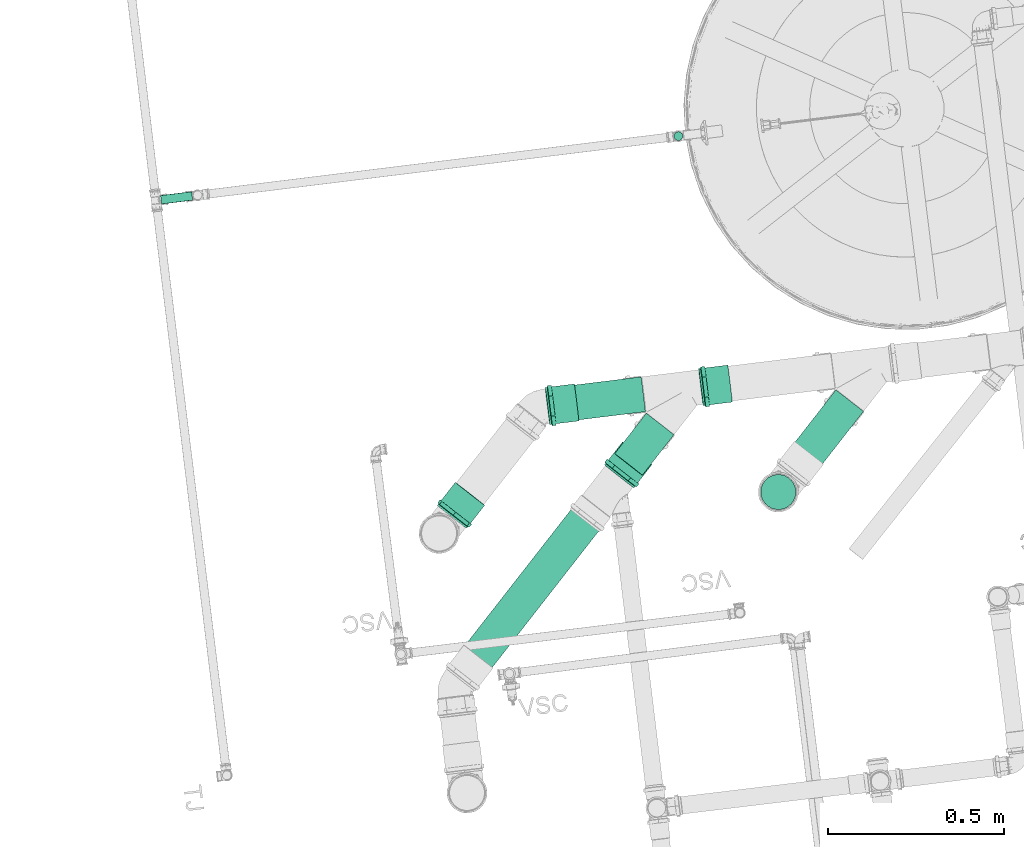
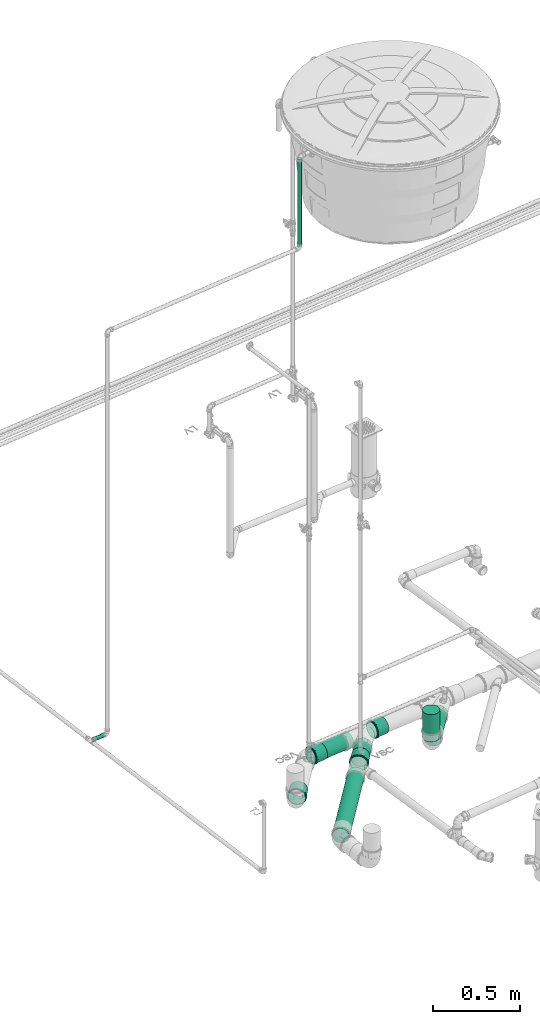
# One storey, part 18 of 97: 7 flow segments, 4 flow fittings.
"""IFC2X3 building model written with IfcOpenShell, lengths in centimetres."""

from ifc_helpers import new_model, entity, si_unit, converted_unit, derived_unit, direction, frame, frame_2d, origin, origin_2d_with_axis, place, context, subcontext, project, spatial, circle, extrude, faceted_brep, source, transform, mapped, material, type_object, type_shapes, element, save


model = new_model("IFC2X3")

# Units and contexts
model_context = context("Model", 3, precision=0.001, world=origin(), true_north=direction((6.12303176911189e-17, 1.0)))
body_context = subcontext(model_context, "Body", "Model", "MODEL_VIEW")
ifc_project = project(units=[si_unit("LENGTHUNIT", "METRE", prefix="CENTI"), si_unit("AREAUNIT", "SQUARE_METRE"), si_unit("VOLUMEUNIT", "CUBIC_METRE"), converted_unit("PLANEANGLEUNIT", "DEGREE", entity("IfcRatioMeasure", 0.0174532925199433), si_unit("PLANEANGLEUNIT", "RADIAN"), dimensions=[0, 0, 0, 0, 0, 0, 0]), si_unit("MASSUNIT", "GRAM", prefix="KILO"), derived_unit("MASSDENSITYUNIT", [(si_unit("MASSUNIT", "GRAM", prefix="KILO"), 1), (si_unit("LENGTHUNIT", "METRE"), -3)]), derived_unit("MOMENTOFINERTIAUNIT", [(si_unit("LENGTHUNIT", "METRE"), 4)]), si_unit("TIMEUNIT", "SECOND"), si_unit("FREQUENCYUNIT", "HERTZ"), si_unit("THERMODYNAMICTEMPERATUREUNIT", "DEGREE_CELSIUS"), derived_unit("THERMALTRANSMITTANCEUNIT", [(si_unit("MASSUNIT", "GRAM", prefix="KILO"), 1), (si_unit("THERMODYNAMICTEMPERATUREUNIT", "KELVIN"), -1), (si_unit("TIMEUNIT", "SECOND"), -3)]), derived_unit("VOLUMETRICFLOWRATEUNIT", [(si_unit("LENGTHUNIT", "METRE"), 3), (si_unit("TIMEUNIT", "SECOND"), -1)]), si_unit("ELECTRICCURRENTUNIT", "AMPERE"), si_unit("ELECTRICVOLTAGEUNIT", "VOLT"), si_unit("POWERUNIT", "WATT"), si_unit("FORCEUNIT", "NEWTON", prefix="KILO"), si_unit("ILLUMINANCEUNIT", "LUX"), si_unit("LUMINOUSFLUXUNIT", "LUMEN"), si_unit("LUMINOUSINTENSITYUNIT", "CANDELA"), derived_unit("USERDEFINED", [(si_unit("MASSUNIT", "GRAM", prefix="KILO"), -1), (si_unit("LENGTHUNIT", "METRE"), -2), (si_unit("TIMEUNIT", "SECOND"), 3), (si_unit("LUMINOUSFLUXUNIT", "LUMEN"), 1)]), derived_unit("LINEARVELOCITYUNIT", [(si_unit("LENGTHUNIT", "METRE"), 1), (si_unit("TIMEUNIT", "SECOND"), -1)]), si_unit("PRESSUREUNIT", "PASCAL"), derived_unit("USERDEFINED", [(si_unit("LENGTHUNIT", "METRE"), -2), (si_unit("MASSUNIT", "GRAM", prefix="KILO"), 1), (si_unit("TIMEUNIT", "SECOND"), -2)]), derived_unit("LINEARFORCEUNIT", [(si_unit("MASSUNIT", "GRAM", prefix="KILO"), 1), (si_unit("LENGTHUNIT", "METRE"), 1), (si_unit("TIMEUNIT", "SECOND"), -2), (si_unit("LENGTHUNIT", "METRE"), -1)]), derived_unit("PLANARFORCEUNIT", [(si_unit("MASSUNIT", "GRAM", prefix="KILO"), 1), (si_unit("LENGTHUNIT", "METRE"), 1), (si_unit("TIMEUNIT", "SECOND"), -2), (si_unit("LENGTHUNIT", "METRE"), -2)])], contexts=[model_context])

# Site, building, storey
site_placement = place(None, origin())
site = spatial("IfcSite", under=ifc_project, at=site_placement, Name="Default", CompositionType="ELEMENT")
building_placement = place(site_placement, origin())
building = spatial("IfcBuilding", under=site, at=building_placement, Name="HIDROSSANITÁRIO", CompositionType="ELEMENT")
storey_placement = place(building_placement, frame((0.0, 0.0, -260.0)))
storey = spatial("IfcBuildingStorey", under=building, at=storey_placement, Name="TÉRREO-HID", CompositionType="ELEMENT", Elevation=-260.0)

# Flow segments
pipe_segment_type_1 = type_object("IfcPipeSegmentType", Name="Tipos de tubos:Tubo Marrom - Água Fria - Soldável", PredefinedType="NOTDEFINED")
flow_segment_1_placement = place(storey_placement, origin())
element("IfcFlowSegment", 1, at=flow_segment_1_placement, inside=storey, type_object=pipe_segment_type_1, Name="Tipos de tubos:Tubo Marrom - Água Fria - Soldável", ObjectType="Tipos de tubos:Tubo Marrom - Água Fria - Soldável", context=body_context, shape_type="SweptSolid", body=[
    extrude(circle(Radius=1.25, at=frame_2d((-2.16573425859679e-13, 4.33146851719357e-13), x_axis=(1.0, 0.0))), frame((-1720.18276475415, 3031.49790081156, 262.928627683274)), (0.0, 0.0, 1.0), 61.0313723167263),
])
flow_segment_2_placement = place(storey_placement, origin())
element("IfcFlowSegment", 2, at=flow_segment_2_placement, inside=storey, type_object=pipe_segment_type_1, Name="Tipos de tubos:Tubo Marrom - Água Fria - Soldável", ObjectType="Tipos de tubos:Tubo Marrom - Água Fria - Soldável", context=body_context, shape_type="SweptSolid", body=[
    extrude(circle(Radius=1.25, at=origin_2d_with_axis()), frame((-1867.53760239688, 3013.36233908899, -20.0), z_axis=(0.99251135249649, 0.122152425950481, 0.0), x_axis=(-0.122152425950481, 0.99251135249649, 0.0)), (0.0, 0.0, 1.0), 8.92665206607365),
])
pipe_segment_type_2 = type_object("IfcPipeSegmentType", Name="Tipos de tubos:Tubo - Esgoto - Série Normal", PredefinedType="NOTDEFINED")
flow_segment_3_placement = place(storey_placement, origin())
element("IfcFlowSegment", 3, at=flow_segment_3_placement, inside=storey, type_object=pipe_segment_type_2, Name="Tipos de tubos:Tubo - Esgoto - Série Normal", ObjectType="Tipos de tubos:Tubo - Esgoto - Série Normal", context=body_context, shape_type="SweptSolid", body=[
    extrude(circle(Radius=5.0, at=origin_2d_with_axis()), frame((-1691.7377128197, 2930.11432660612, -29.0535397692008)), (0.0, 0.0, 1.0), 19.0535397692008),
])
flow_segment_4_placement = place(storey_placement, origin())
element("IfcFlowSegment", 4, at=flow_segment_4_placement, inside=storey, type_object=pipe_segment_type_2, Name="Tipos de tubos:Tubo - Esgoto - Série Normal", ObjectType="Tipos de tubos:Tubo - Esgoto - Série Normal", context=body_context, shape_type="SweptSolid", body=[
    extrude(circle(Radius=5.0, at=origin_2d_with_axis()), frame((-1688.10663629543, 2934.76462587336, -34.5006496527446), z_axis=(0.615405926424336, 0.788146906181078, -0.00999999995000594), x_axis=(0.78818631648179, -0.615436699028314, 0.0)), (0.0, 0.0, 1.0), 27.0994884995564),
])
flow_segment_5_placement = place(storey_placement, origin())
element("IfcFlowSegment", 5, at=flow_segment_5_placement, inside=storey, type_object=pipe_segment_type_2, Name="Tipos de tubos:Tubo - Esgoto - Série Normal", ObjectType="Tipos de tubos:Tubo - Esgoto - Série Normal", context=body_context, shape_type="SweptSolid", body=[
    extrude(circle(Radius=5.0, at=frame_2d((2.66574468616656e-13, 3.41405657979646e-15), x_axis=(1.0, 0.0))), frame((-1734.39724913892, 2937.97146949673, -34.3546397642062), z_axis=(0.615405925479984, 0.788146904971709, -0.0100001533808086), x_axis=(0.788186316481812, -0.615436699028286, 0.0)), (0.0, 0.0, 1.0), 14.6018105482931),
])
flow_segment_6_placement = place(storey_placement, origin())
element("IfcFlowSegment", 6, at=flow_segment_6_placement, inside=storey, type_object=pipe_segment_type_2, Name="Tipos de tubos:Tubo - Esgoto - Série Normal", ObjectType="Tipos de tubos:Tubo - Esgoto - Série Normal", context=body_context, shape_type="SweptSolid", body=[
    extrude(circle(Radius=5.0, at=origin_2d_with_axis()), frame((-1730.21313428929, 2957.96120480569, -34.2277384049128), z_axis=(-0.992461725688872, -0.122146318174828, 0.00999999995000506), x_axis=(0.122152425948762, -0.992511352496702, 0.0)), (0.0, 0.0, 1.0), 27.4731890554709),
])
flow_segment_7_placement = place(storey_placement, origin())
element("IfcFlowSegment", 7, at=flow_segment_7_placement, inside=storey, type_object=pipe_segment_type_2, Name="Tipos de tubos:Tubo - Esgoto - Série Normal", ObjectType="Tipos de tubos:Tubo - Esgoto - Série Normal", context=body_context, shape_type="SweptSolid", body=[
    extrude(circle(Radius=5.0, at=frame_2d((-9.58742578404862e-14, -4.74694936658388e-15), x_axis=(1.0, 0.0))), frame((-1782.2646109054, 2876.66800870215, -33.9013877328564), z_axis=(0.615405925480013, 0.788146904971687, -0.0100001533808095), x_axis=(0.788186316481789, -0.615436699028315, 0.0)), (0.0, 0.0, 1.0), 62.6370016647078),
])

# Flow fittings
ifc_material = material(Name="PVC Branco")
pipe_fitting_type = type_object("IfcPipeFittingType", Name="Luva Simples para Conexão - Serie Normal - Esgoto - MEP - Tigre:Standard", PredefinedType="NOTDEFINED", material=ifc_material)
shared_shape = source(origin(), body_context, "Body", "Brep", [
    faceted_brep([(1.77700000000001, 2.8725, -4.9753159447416), (1.77700000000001, 4.06232845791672, -4.06232845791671), (1.77700000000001, 2.65249999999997, -4.59426476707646), (1.77700000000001, 1.37303503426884, -5.12423650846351), (1.77700000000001, 1.48691541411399, -5.5492438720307), (1.77700000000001, 3.75120147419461, -3.75120147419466), (1.77700000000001, 4.9753159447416, -2.8725), (1.77700000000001, 4.59426476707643, -2.65250000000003), (1.77700000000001, 5.1242365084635, -1.37303503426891), (1.77700000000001, 5.5492438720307, -1.48691541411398), (1.77700000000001, 5.305, 0.0), (1.77700000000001, 5.745, 0.0), (1.77700000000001, 5.1242365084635, 1.3730350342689), (1.77700000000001, 5.54924387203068, 1.48691541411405), (1.77700000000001, 4.59426476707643, 2.65250000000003), (1.77700000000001, 4.97531594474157, 2.87250000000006), (1.77700000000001, 3.75120147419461, 3.75120147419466), (1.77700000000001, 4.06232845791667, 4.06232845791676), (1.77700000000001, 2.65249999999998, 4.59426476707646), (1.77700000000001, 2.87249999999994, 4.97531594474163), (1.77700000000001, 1.37303503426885, 5.12423650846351), (1.77700000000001, 1.48691541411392, 5.54924387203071), (1.77700000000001, 0.0, 5.305), (1.77700000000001, 0.0, 5.745), (1.77700000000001, -1.37303503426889, 5.1242365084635), (1.77700000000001, -1.48691541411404, 5.54924387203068), (1.77700000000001, -2.65250000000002, 4.59426476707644), (1.77700000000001, -2.87250000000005, 4.97531594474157), (1.77700000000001, -3.75120147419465, 3.75120147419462), (1.77700000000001, -4.06232845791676, 4.06232845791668), (1.77700000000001, -4.59426476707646, 2.65249999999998), (1.77700000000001, -4.97531594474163, 2.87249999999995), (1.77700000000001, -5.54924387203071, 1.48691541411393), (1.77700000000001, -5.12423650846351, 1.37303503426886), (1.77700000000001, -5.745, 0.0), (1.77700000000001, -5.305, 0.0), (1.77700000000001, -5.54924387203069, -1.486915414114), (1.77700000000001, -5.12423650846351, -1.37303503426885), (1.77700000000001, -4.97531594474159, -2.87250000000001), (1.77700000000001, -4.59426476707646, -2.65249999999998), (1.77700000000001, -4.06232845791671, -4.06232845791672), (1.77700000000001, -3.75120147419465, -3.75120147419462), (1.77700000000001, -2.87249999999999, -4.97531594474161), (1.77700000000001, -2.65250000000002, -4.59426476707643), (1.77700000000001, -1.48691541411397, -5.5492438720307), (1.77700000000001, -1.3730350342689, -5.1242365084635), (1.77700000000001, 0.0, -5.745), (1.77700000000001, 0.0, -5.305), (0.657000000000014, -1.93463887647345, 5.31665771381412), (0.657000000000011, -4.4007619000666, 3.69300957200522), (0.657000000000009, -4.89962626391, 2.82901737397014), (0.657000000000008, -5.39849062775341, 1.96502517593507), (0.657000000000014, -2.87216972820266, 4.97550661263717), (0.657000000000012, -3.63646581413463, 4.3342580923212), (0.657000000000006, -5.5717453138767, 0.982512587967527), (0.657000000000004, -5.745, 0.0), (0.657000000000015, -0.997108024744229, 5.65780881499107), (0.657000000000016, 0.998234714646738, 5.65761013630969), (0.657000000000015, 0.0005633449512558, 5.65770947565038), (0.657000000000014, 3.63732887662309, 4.33353383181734), (0.657000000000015, 1.93569761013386, 5.31627233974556), (0.657000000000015, 2.87316050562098, 4.97493454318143), (0.65700000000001, 5.39888184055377, 1.96395006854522), (0.657000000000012, 4.90018954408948, 2.82804159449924), (0.657000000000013, 4.40149724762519, 3.69213312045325), (0.657000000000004, 5.745, 0.0), (0.656999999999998, 4.40149724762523, -3.6921331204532), (0.657, 4.90018954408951, -2.82804159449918), (0.657000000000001, 5.39888184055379, -1.96395006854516), (0.656999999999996, 2.87316050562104, -4.9749345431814), (0.656999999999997, 3.63732887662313, -4.3335338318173), (0.656999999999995, 1.93569761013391, -5.31627233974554), (0.656999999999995, 0.998234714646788, -5.65761013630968), (0.656999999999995, -0.997108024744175, -5.65780881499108), (0.656999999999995, 0.000563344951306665, -5.65770947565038), (0.656999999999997, -3.6364658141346, -4.33425809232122), (0.656999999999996, -2.87216972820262, -4.9755066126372), (0.656999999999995, -1.9346388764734, -5.31665771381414), (0.657000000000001, -5.39849062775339, -1.96502517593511), (0.657, -4.89962626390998, -2.82901737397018), (0.656999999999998, -4.40076190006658, -3.69300957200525), (0.657000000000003, -5.5717453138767, -0.982512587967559), (8.35200000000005, 2.6525, -4.59426476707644), (8.35200000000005, 3.75120147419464, -3.75120147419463), (8.35200000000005, 2.49999999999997, -4.33012701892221), (8.35200000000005, 1.29409522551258, -4.82962913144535), (8.35200000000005, 1.37303503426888, -5.1242365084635), (8.35200000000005, 3.53553390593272, -3.53553390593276), (8.35200000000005, 4.59426476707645, -2.6525), (8.35200000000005, 4.33012701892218, -2.50000000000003), (8.35200000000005, 4.82962913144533, -1.29409522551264), (8.35200000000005, 5.12423650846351, -1.37303503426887), (8.35200000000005, 5.0, 0.0), (8.35200000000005, 5.305, 0.0), (8.35200000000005, 4.82962913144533, 1.29409522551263), (8.35200000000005, 5.12423650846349, 1.37303503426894), (8.35200000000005, 4.33012701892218, 2.50000000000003), (8.35200000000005, 4.59426476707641, 2.65250000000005), (8.35200000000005, 3.53553390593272, 3.53553390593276), (8.35200000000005, 3.75120147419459, 3.75120147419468), (8.35200000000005, 2.49999999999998, 4.33012701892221), (8.35200000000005, 2.65249999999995, 4.59426476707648), (8.35200000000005, 1.29409522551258, 4.82962913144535), (8.35200000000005, 1.37303503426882, 5.12423650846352), (8.35200000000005, 0.0, 5.0), (8.35200000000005, 0.0, 5.305), (8.35200000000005, -1.29409522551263, 4.82962913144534), (8.35200000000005, -1.37303503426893, 5.12423650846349), (8.35200000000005, -2.50000000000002, 4.33012701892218), (8.35200000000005, -2.65250000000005, 4.59426476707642), (8.35200000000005, -3.53553390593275, 3.53553390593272), (8.35200000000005, -3.75120147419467, 3.7512014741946), (8.35200000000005, -4.3301270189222, 2.49999999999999), (8.35200000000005, -4.59426476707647, 2.65249999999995), (8.35200000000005, -5.12423650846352, 1.37303503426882), (8.35200000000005, -4.82962913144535, 1.29409522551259), (8.35200000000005, -5.305, 0.0), (8.35200000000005, -5.0, 0.0), (8.35200000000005, -5.1242365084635, -1.37303503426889), (8.35200000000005, -4.82962913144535, -1.29409522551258), (8.35200000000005, -4.59426476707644, -2.65250000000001), (8.35200000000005, -4.3301270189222, -2.49999999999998), (8.35200000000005, -3.75120147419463, -3.75120147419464), (8.35200000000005, -3.53553390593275, -3.53553390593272), (8.35200000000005, -2.65249999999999, -4.59426476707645), (8.35200000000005, -2.50000000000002, -4.33012701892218), (8.35200000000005, -1.37303503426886, -5.12423650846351), (8.35200000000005, -1.29409522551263, -4.82962913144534), (8.35200000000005, 0.0, -5.305), (8.35200000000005, 0.0, -5.0), (0.0, 2.49999999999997, -4.33012701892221), (0.0, 3.75120147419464, -3.75120147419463), (0.0, 2.6525, -4.59426476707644), (0.0, 1.29409522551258, -4.82962913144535), (0.0, 3.53553390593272, -3.53553390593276), (0.0, 4.59426476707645, -2.6525), (0.0, 4.33012701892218, -2.50000000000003), (0.0, 4.82962913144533, -1.29409522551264), (0.0, 5.12423650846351, -1.37303503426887), (0.0, 5.0, 0.0), (0.0, 5.305, 0.0), (0.0, 4.82962913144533, 1.29409522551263), (0.0, 5.12423650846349, 1.37303503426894), (0.0, 4.33012701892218, 2.50000000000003), (0.0, 4.59426476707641, 2.65250000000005), (0.0, 3.53553390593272, 3.53553390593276), (0.0, 3.75120147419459, 3.75120147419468), (0.0, 2.49999999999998, 4.33012701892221), (0.0, 2.65249999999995, 4.59426476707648), (0.0, 1.29409522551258, 4.82962913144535), (0.0, 1.37303503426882, 5.12423650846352), (0.0, 0.0, 5.0), (0.0, 0.0, 5.305), (0.0, -1.29409522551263, 4.82962913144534), (0.0, -1.37303503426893, 5.12423650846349), (0.0, -2.50000000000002, 4.33012701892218), (0.0, -2.65250000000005, 4.59426476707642), (0.0, -3.53553390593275, 3.53553390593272), (0.0, -3.75120147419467, 3.7512014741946), (0.0, -4.3301270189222, 2.49999999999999), (0.0, -4.59426476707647, 2.65249999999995), (0.0, -5.12423650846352, 1.37303503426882), (0.0, -4.82962913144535, 1.29409522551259), (0.0, -5.305, 0.0), (0.0, -5.0, 0.0), (0.0, -5.1242365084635, -1.37303503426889), (0.0, -4.82962913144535, -1.29409522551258), (0.0, -4.59426476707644, -2.65250000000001), (0.0, -4.3301270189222, -2.49999999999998), (0.0, -3.75120147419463, -3.75120147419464), (0.0, -3.53553390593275, -3.53553390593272), (0.0, -2.65249999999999, -4.59426476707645), (0.0, -2.50000000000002, -4.33012701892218), (0.0, -1.37303503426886, -5.12423650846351), (0.0, -1.29409522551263, -4.82962913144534), (0.0, 0.0, -5.305), (0.0, 0.0, -5.0), (0.0, 1.37303503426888, -5.1242365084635), (0.537000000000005, -5.305, 0.0), (0.537000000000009, -4.98507989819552, 1.81438788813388), (0.537000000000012, -4.06390540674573, 3.4099410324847), (0.537000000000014, -2.65258010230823, 4.59421851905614), (0.537000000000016, -0.921325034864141, 5.22438371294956), (0.537000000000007, 5.1449924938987, 0.907324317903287), (0.537000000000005, 5.305, 0.0), (0.537000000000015, 2.65233979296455, 4.59435725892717), (0.537000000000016, 0.921051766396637, 5.22443189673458), (0.537000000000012, 4.06372704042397, 3.41015359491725), (0.537000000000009, 4.9849849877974, 1.81464863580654), (0.537000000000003, 5.14499249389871, -0.907324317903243), (0.537000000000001, 4.98498498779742, -1.81464863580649), (0.536999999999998, 4.063727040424, -3.41015359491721), (0.536999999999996, 2.6523397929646, -4.59435725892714), (0.536999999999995, 0.921051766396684, -5.22443189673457), (0.536999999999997, -2.6525801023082, -4.59421851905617), (0.536999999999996, -0.921325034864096, -5.22438371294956), (0.536999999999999, -4.0639054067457, -3.40994103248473), (0.537000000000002, -4.98507989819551, -1.81438788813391), (5.0, -5.0, 0.0), (5.0, 5.0, 0.0)], [[[0, 1, 2]], [[0, 2, 3]], [[3, 4, 0]], [[2, 1, 5]], [[6, 5, 1]], [[5, 6, 7]], [[7, 6, 8]], [[9, 8, 6]], [[9, 10, 8]], [[10, 9, 11]], [[12, 10, 11]], [[11, 13, 12]], [[12, 13, 14]], [[15, 14, 13]], [[14, 15, 16]], [[16, 15, 17]], [[18, 16, 17]], [[17, 19, 18]], [[18, 19, 20]], [[21, 20, 19]], [[20, 21, 22]], [[22, 21, 23]], [[22, 23, 24]], [[24, 23, 25]], [[24, 25, 26]], [[27, 26, 25]], [[27, 28, 26]], [[28, 27, 29]], [[29, 30, 28]], [[31, 30, 29]], [[30, 31, 32]], [[32, 33, 30]], [[34, 33, 32]], [[34, 35, 33]], [[36, 35, 34]], [[36, 37, 35]], [[37, 36, 38]], [[38, 39, 37]], [[39, 38, 40]], [[39, 40, 41]], [[40, 42, 41]], [[41, 42, 43]], [[43, 42, 44]], [[44, 45, 43]], [[46, 45, 44]], [[4, 47, 46]], [[46, 47, 45]], [[4, 3, 47]], [[48, 27, 25]], [[31, 29, 49]], [[31, 49, 50, 51]], [[52, 53, 27]], [[32, 51, 54]], [[54, 55, 34]], [[54, 34, 32]], [[25, 56, 48]], [[49, 29, 53]], [[23, 57, 58, 56]], [[59, 19, 17]], [[27, 53, 29]], [[48, 52, 27]], [[31, 51, 32]], [[57, 23, 21]], [[60, 19, 61]], [[15, 62, 63, 64]], [[19, 60, 21]], [[15, 13, 62]], [[17, 64, 59]], [[57, 21, 60]], [[23, 56, 25]], [[15, 64, 17]], [[13, 65, 62]], [[13, 11, 65]], [[59, 61, 19]], [[65, 11, 9]], [[6, 1, 66]], [[6, 66, 67, 68]], [[69, 70, 0]], [[68, 65, 9]], [[71, 69, 0]], [[71, 0, 4]], [[4, 72, 71]], [[66, 1, 70]], [[46, 73, 74, 72]], [[75, 76, 42]], [[0, 70, 1]], [[75, 42, 40]], [[6, 68, 9]], [[73, 46, 44]], [[77, 42, 76]], [[38, 78, 79, 80]], [[42, 77, 44]], [[38, 36, 78]], [[40, 80, 75]], [[73, 44, 77]], [[46, 72, 4]], [[38, 80, 40]], [[81, 78, 36]], [[55, 81, 34]], [[34, 81, 36]], [[82, 83, 84]], [[82, 84, 85]], [[85, 86, 82]], [[84, 83, 87]], [[88, 87, 83]], [[87, 88, 89]], [[89, 88, 90]], [[91, 90, 88]], [[91, 92, 90]], [[92, 91, 93]], [[94, 92, 93]], [[93, 95, 94]], [[94, 95, 96]], [[97, 96, 95]], [[96, 97, 98]], [[98, 97, 99]], [[100, 98, 99]], [[99, 101, 100]], [[100, 101, 102]], [[103, 102, 101]], [[102, 103, 104]], [[104, 103, 105]], [[104, 105, 106]], [[106, 105, 107]], [[106, 107, 108]], [[109, 108, 107]], [[110, 108, 109]], [[110, 109, 111]], [[111, 112, 110]], [[113, 112, 111]], [[112, 113, 114]], [[114, 115, 112]], [[116, 115, 114]], [[116, 117, 115]], [[118, 117, 116]], [[118, 119, 117]], [[119, 118, 120]], [[120, 121, 119]], [[121, 120, 122]], [[121, 122, 123]], [[122, 124, 123]], [[125, 123, 124]], [[125, 124, 126]], [[126, 127, 125]], [[128, 127, 126]], [[86, 129, 128]], [[128, 129, 127]], [[86, 85, 129]], [[130, 131, 132]], [[133, 130, 132]], [[134, 131, 130]], [[131, 134, 135]], [[136, 135, 134]], [[137, 135, 136]], [[135, 137, 138]], [[137, 139, 138]], [[140, 138, 139]], [[140, 139, 141]], [[141, 142, 140]], [[143, 142, 141]], [[142, 143, 144]], [[145, 144, 143]], [[146, 144, 145]], [[146, 145, 147]], [[147, 148, 146]], [[149, 148, 147]], [[148, 149, 150]], [[151, 150, 149]], [[152, 150, 151]], [[153, 152, 151]], [[154, 152, 153]], [[155, 154, 153]], [[154, 155, 156]], [[156, 155, 157]], [[158, 156, 157]], [[157, 159, 158]], [[158, 159, 160]], [[161, 160, 159]], [[159, 162, 161]], [[161, 162, 163]], [[162, 164, 163]], [[163, 164, 165]], [[164, 166, 165]], [[167, 165, 166]], [[166, 168, 167]], [[169, 167, 168]], [[170, 169, 168]], [[170, 171, 169]], [[171, 170, 172]], [[173, 171, 172]], [[172, 174, 173]], [[173, 174, 175]], [[174, 176, 175]], [[176, 133, 177]], [[175, 176, 177]], [[132, 177, 133]], [[161, 178, 179]], [[158, 180, 181]], [[179, 180, 160]], [[181, 182, 154]], [[179, 160, 161]], [[161, 163, 178]], [[35, 116, 114, 33]], [[183, 184, 140]], [[181, 156, 158]], [[158, 160, 180]], [[181, 154, 156]], [[182, 152, 154]], [[183, 140, 142]], [[185, 150, 186]], [[187, 146, 185]], [[142, 188, 183]], [[187, 188, 144]], [[185, 148, 150]], [[150, 152, 186]], [[187, 144, 146]], [[146, 148, 185]], [[188, 142, 144]], [[186, 152, 182]], [[189, 190, 138]], [[131, 191, 192]], [[190, 191, 135]], [[192, 193, 177]], [[190, 135, 138]], [[184, 189, 140]], [[192, 132, 131]], [[131, 135, 191]], [[192, 177, 132]], [[193, 175, 177]], [[140, 189, 138]], [[194, 173, 195]], [[196, 169, 194]], [[165, 197, 178]], [[196, 197, 167]], [[165, 178, 163]], [[35, 37, 118, 116]], [[194, 171, 173]], [[173, 175, 195]], [[196, 167, 169]], [[169, 171, 194]], [[197, 165, 167]], [[195, 175, 193]], [[115, 117, 198, 164, 162]], [[155, 108, 110, 157]], [[110, 112, 159, 157]], [[112, 115, 162, 159]], [[106, 108, 155, 153]], [[153, 151, 104, 106]], [[102, 104, 151, 149]], [[102, 149, 147, 100]], [[141, 94, 96, 143]], [[96, 98, 145, 143]], [[98, 100, 147, 145]], [[92, 94, 141, 139, 199]], [[199, 139, 137, 90, 92]], [[87, 89, 136, 134]], [[134, 130, 84, 87]], [[89, 90, 137, 136]], [[85, 84, 130, 133]], [[133, 176, 129, 85]], [[127, 129, 176, 174]], [[127, 174, 172, 125]], [[166, 119, 121, 168]], [[121, 123, 170, 168]], [[123, 125, 172, 170]], [[117, 119, 166, 164, 198]], [[81, 178, 197]], [[190, 68, 67]], [[194, 75, 196]], [[193, 72, 74]], [[195, 77, 194]], [[79, 197, 196]], [[81, 55, 178]], [[192, 69, 71]], [[79, 78, 197]], [[194, 77, 76]], [[191, 66, 70]], [[80, 196, 75]], [[68, 190, 189]], [[74, 195, 193]], [[192, 71, 193]], [[190, 67, 191]], [[70, 192, 191]], [[65, 189, 184]], [[195, 73, 77]], [[193, 71, 72]], [[197, 78, 81]], [[191, 67, 66]], [[189, 65, 68]], [[196, 80, 79]], [[70, 69, 192]], [[194, 76, 75]], [[73, 195, 74]], [[65, 183, 62]], [[48, 56, 182]], [[58, 182, 56]], [[54, 51, 179]], [[59, 185, 61]], [[60, 186, 57]], [[53, 52, 181]], [[63, 187, 64]], [[58, 57, 186]], [[187, 63, 188]], [[186, 60, 185]], [[50, 49, 180]], [[185, 59, 187]], [[59, 64, 187]], [[182, 58, 186]], [[50, 179, 51]], [[54, 178, 55]], [[53, 180, 49]], [[63, 62, 188]], [[181, 48, 182]], [[183, 65, 184]], [[179, 50, 180]], [[178, 54, 179]], [[183, 188, 62]], [[180, 53, 181]], [[60, 61, 185]], [[48, 181, 52]], [[30, 33, 114, 113]], [[26, 28, 111, 109]], [[113, 111, 28, 30]], [[107, 24, 26, 109]], [[107, 105, 22, 24]], [[18, 20, 103, 101]], [[99, 16, 18, 101]], [[12, 14, 97, 95]], [[99, 97, 14, 16]], [[10, 12, 95, 93]], [[103, 20, 22, 105]], [[91, 8, 10, 93]], [[88, 7, 8, 91]], [[82, 86, 3, 2]], [[83, 5, 7, 88]], [[2, 5, 83, 82]], [[86, 128, 47, 3]], [[43, 45, 126, 124]], [[122, 41, 43, 124]], [[37, 39, 120, 118]], [[122, 120, 39, 41]], [[126, 45, 47, 128]]]),
])
type_shapes(pipe_fitting_type, [shared_shape])
for number, where, z_axis, x_axis, name in (
    (8, (-1757.47922290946, 2954.60545591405, -33.9530065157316), (0.012869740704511, -0.0227320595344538, 0.999658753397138), (0.992461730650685, 0.122146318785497, -0.00999950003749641), "Luva Simples para Conexão - Serie Normal - Esgoto - MEP - Tigre:Standard"),
    (9, (-1713.77896049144, 2959.98382569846, -34.3933201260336), (-0.0131163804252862, 0.0247402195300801, -0.999607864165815), (0.992461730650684, 0.122146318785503, -0.00999950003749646), "Luva Simples para Conexão - Serie Normal - Esgoto - MEP - Tigre:Standard"),
    (10, (-1737.05637735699, 2934.56593895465, -34.404034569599), (-0.0200529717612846, 0.00115652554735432, 0.999798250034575), (0.615396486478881, 0.788134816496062, 0.0114313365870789), "Luva Simples para Conexão - Serie Normal - Esgoto - MEP - Tigre:Standard"),
    (11, (-1784.69712056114, 2923.02733253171, -34.3265962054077), (-0.788186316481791, 0.615436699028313, 0.0), (0.615404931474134, 0.788145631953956, 0.010160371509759), "Luva Simples para Conexão - Serie Normal - Esgoto - MEP - Tigre:Standard"),
):
    element("IfcFlowFitting", number, at=place(storey_placement, frame(where, z_axis=z_axis, x_axis=x_axis)), inside=storey, type_object=pipe_fitting_type, material=ifc_material, Name=name, ObjectType="Luva Simples para Conexão - Serie Normal - Esgoto - MEP - Tigre:Standard", context=body_context, shape_type="MappedRepresentation", body=[
        mapped(shared_shape, transform((0.0, 0.0, 0.0), scale=1.0)),
    ])

save(model, "model.ifc")
